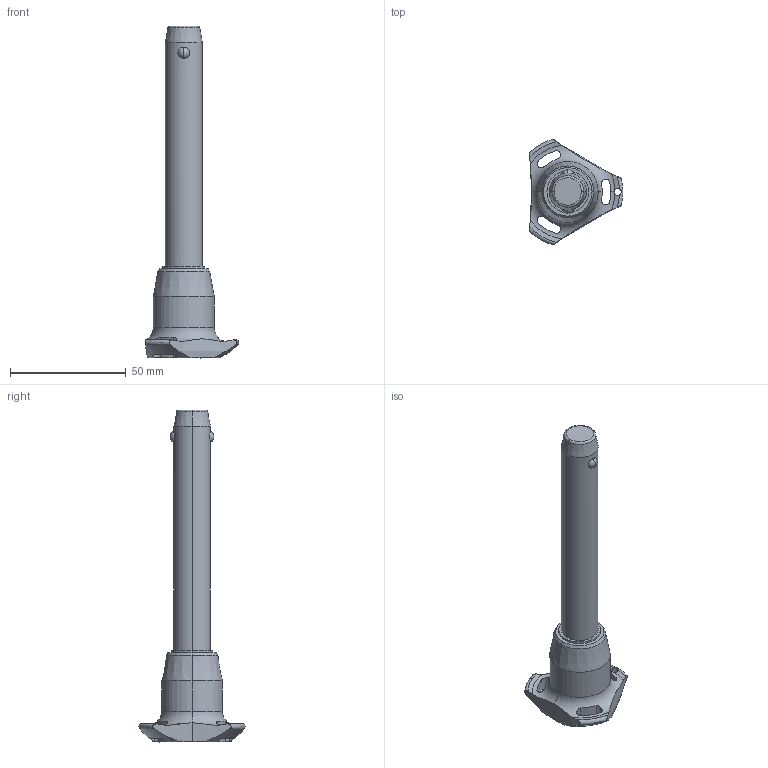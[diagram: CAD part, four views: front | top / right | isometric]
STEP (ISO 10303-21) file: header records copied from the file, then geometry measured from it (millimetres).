
FILE_DESCRIPTION (( 'STEP AP203' ), '1' );
FILE_NAME ('QR1704.M16-090-S.step', '2025-11-12T09:30:56', ( '' ), ( '' ), 'SwSTEP 2.0', 'SolidWorks 2019', '' );
FILE_SCHEMA (( 'CONFIG_CONTROL_DESIGN' ));
Length unit declared in the file: millimetre
Products named in the file (1): QR1704.M16-090-S
Bounding box: 40.5 x 45.88 x 143.7 mm (x, y, z)
Volume: 43192.2 mm3; surface area: 11182.4 mm2
Topology: 1 solids, 1 shells, 65 faces, 178 edges, 113 vertices
Faces by surface type: cylinder 30, cone 14, torus 11, sphere 6, plane 4
Entity records: 2870 total; most frequent: CARTESIAN_POINT 1181, ORIENTED_EDGE 356, DIRECTION 329, EDGE_CURVE 178, AXIS2_PLACEMENT_3D 147, VERTEX_POINT 113, CIRCLE 81, EDGE_LOOP 71
